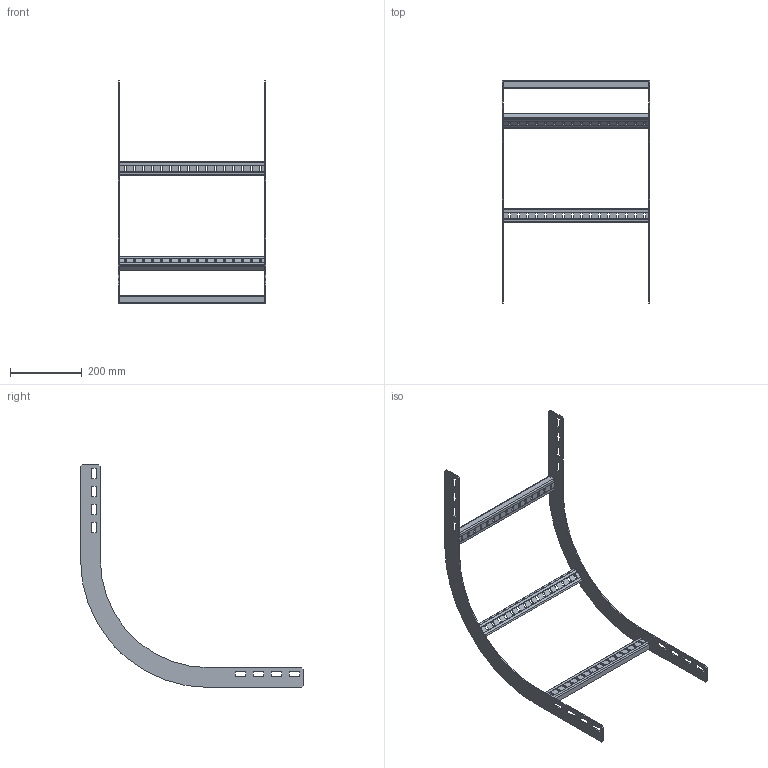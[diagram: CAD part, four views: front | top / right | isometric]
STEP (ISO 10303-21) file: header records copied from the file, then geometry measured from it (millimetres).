
FILE_DESCRIPTION(('Creo Elements/Direct Modeling STEP Export'),'2;1');
FILE_NAME('//pserver/office/EK/ME10-3D/3D-output/WPIR06-40-90-30.stp','2019-08-14T 9:41:03',(''),(''),'PTC Creo Elements/Direct Modeling STEP processor for AP214 (Solid Model)','PTC Creo Elements/Direct Modeling 19.0C 15-Aug-2015 (C) Parametric Technology GmbH','');
FILE_SCHEMA(('AUTOMOTIVE_DESIGN { 1 0 10303 214 1 1 1 1 }'));
Length unit declared in the file: millimetre
Products named in the file (3): WPIRS_60-90-300.002; WPHBS40; WPIR06-40-90-30
Assembly tree (5 placements, depth 2):
  WPIR06-40-90-30
    WPHBS40  x3
    WPIRS_60-90-300.002  x2
Bounding box: 411 x 620 x 620 mm (x, y, z)
Volume: 505140.9 mm3; surface area: 479581.5 mm2
Topology: 5 solids, 5 shells, 404 faces, 1182 edges, 788 vertices
Faces by surface type: plane 250, cylinder 154
Entity records: 5156 total; most frequent: CARTESIAN_POINT 885, ORIENTED_EDGE 876, DIRECTION 852, EDGE_CURVE 438, VECTOR 334, LINE 334, VERTEX_POINT 292, AXIS2_PLACEMENT_3D 259
